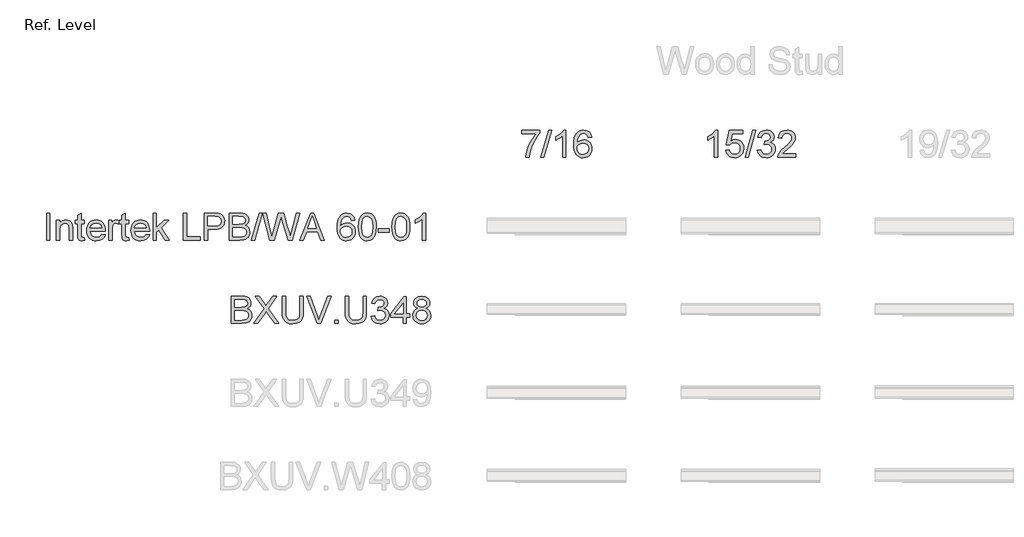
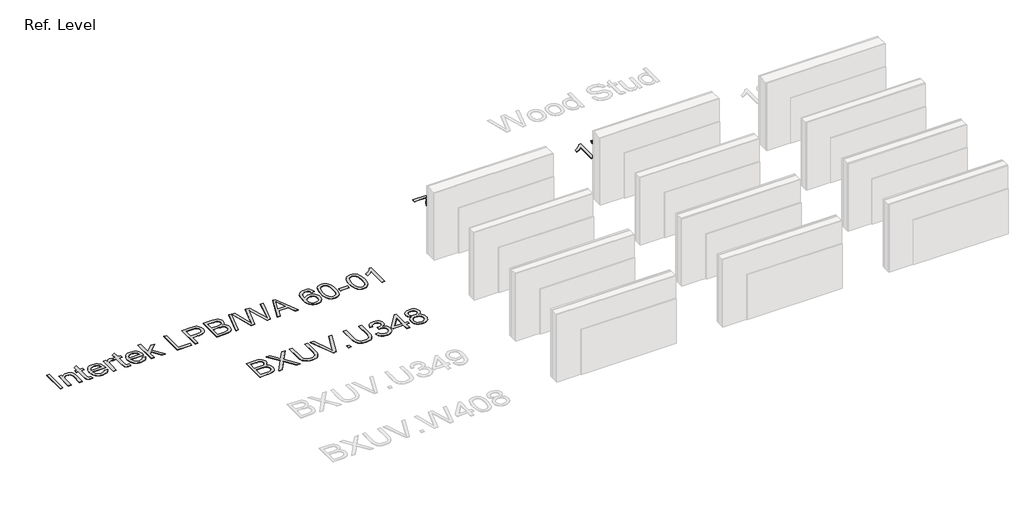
# One storey, part 4 of 5: 4 proxies.
"""IFC4 building model written with IfcOpenShell, lengths in millimetres."""

from ifc_helpers import new_model, si_unit, origin, origin_with_axes, place, context, project, spatial, polyline, outline, extrude, element, save

model = new_model("IFC4")

# Units and contexts
model_context = context("Model", 3, world=origin())
ifc_project = project(units=[si_unit("LENGTHUNIT", "METRE", prefix="MILLI")], contexts=[model_context])

# Site, building, storey
site = spatial("IfcSite", under=ifc_project)
building = spatial("IfcBuilding", under=site)
storey = spatial("IfcBuildingStorey", under=building, Name="Ref. Level", Elevation=0.0)

# Proxies
placement = place(None, origin())
element("IfcBuildingElementProxy", 1, Name="12\" Arial", ObjectType="12\" Arial", at=placement, inside=storey, context=model_context, shape_type="SweptSolid", body=[
    extrude(outline(polyline([(-7350.7408625, -274.6742281), (-7350.7408625, -237.160382), (-7153.7931702, -237.160382), (-7153.7931702, -267.4938435), (-7181.8644442, -303.0202618), (-7209.6609586, -348.1999012), (-7234.178675, -398.9113676), (-7252.4135548, -451.0332666), (-7261.3524009, -490.0308147), (-7266.3347086, -532.5819205), (-7303.8485548, -532.5819205), (-7299.7912711, -493.9140839), (-7288.9382663, -447.9559589), (-7271.5826173, -399.2410791), (-7248.0174009, -352.3029781), (-7220.5048048, -309.8709349), (-7191.3070163, -274.6742281), (-7350.7408625, -274.6742281)])), origin_with_axes(), (0.0, 0.0, 1.0), 3.175),
    extrude(outline(polyline([(-7139.7254778, -532.5819205), (-7055.319324, -232.4711512), (-7021.4689394, -232.4711512), (-7105.8750932, -532.5819205), (-7139.7254778, -532.5819205)])), origin_with_axes(), (0.0, 0.0, 1.0), 3.175),
    extrude(outline(polyline([(-6863.0608625, -532.5819205), (-6900.5747086, -532.5819205), (-6900.5747086, -298.7065358), (-6936.1102855, -324.0210551), (-6975.6024009, -342.9611512), (-6975.6024009, -307.4988435), (-6946.1390115, -291.4711993), (-6920.6138432, -272.402882), (-6900.4922807, -252.1256224), (-6887.2397086, -232.4711512), (-6863.0608625, -232.4711512), (-6863.0608625, -532.5819205)])), origin_with_axes(), (0.0, 0.0, 1.0), 3.175),
    extrude(outline(polyline([(-6581.7070163, -312.1880743), (-6619.2208625, -316.8773051), (-6625.265574, -298.2852378), (-6633.4350932, -285.5913435), (-6650.4518721, -273.8865839), (-6671.0222086, -269.9849974), (-6688.4602855, -272.2563435), (-6704.8725932, -279.070382), (-6718.9677615, -293.4219926), (-6730.4801894, -313.1772089), (-6738.2558865, -341.1202618), (-6741.1408625, -380.035382), (-6726.0931942, -362.4782426), (-6708.0598048, -350.1049012), (-6688.0481461, -342.7688195), (-6667.0656702, -340.3234589), (-6649.0414394, -341.9949132), (-6632.409324, -347.0092762), (-6617.169324, -355.3665479), (-6603.3214394, -367.0667281), (-6591.8135908, -381.4137594), (-6583.593699, -397.7115839), (-6578.6617639, -415.9602017), (-6577.0177855, -436.1596128), (-6580.1134105, -463.0219445), (-6589.4002855, -487.9243243), (-6604.1090836, -509.0441801), (-6623.4704778, -524.5589397), (-6646.6052375, -534.0930983), (-6672.6341317, -537.2711512), (-6694.9972747, -535.1646608), (-6715.1943961, -528.8451897), (-6733.2254959, -518.3127378), (-6749.090574, -503.5673051), (-6762.0248829, -483.9861031), (-6771.263675, -458.9463435), (-6776.8069502, -428.4480262), (-6778.6547086, -392.4911512), (-6776.6031702, -352.1793363), (-6770.4485548, -317.7748531), (-6760.1908625, -289.2777017), (-6745.8300932, -266.687882), (-6730.264961, -251.7180623), (-6712.2178336, -241.0253339), (-6691.688711, -234.6096969), (-6668.6775932, -232.4711512), (-6635.7613913, -237.7648531), (-6609.4027855, -253.6459589), (-6590.9389394, -278.8688916), (-6581.7070163, -312.1880743)]), holes=[polyline([(-6741.1408625, -435.5734589), (-6738.9702615, -452.1964156), (-6732.4584586, -468.0683628), (-6722.3473048, -481.714757), (-6709.3786509, -491.6610551), (-6693.7265115, -497.7332426), (-6675.5649009, -499.7573051), (-6650.8090596, -495.5626416), (-6631.3469202, -482.9786512), (-6618.7354538, -463.1959589), (-6614.5316317, -437.4051897), (-6618.6805019, -412.6493483), (-6631.1271125, -393.7733628), (-6650.9189634, -381.8213195), (-6677.1035548, -377.8373051), (-6701.8227615, -381.8213195), (-6722.4938432, -393.7733628), (-6736.4791077, -412.1914156), (-6741.1408625, -435.5734589)])]), origin_with_axes(), (0.0, 0.0, 1.0), 3.175),
])
element("IfcBuildingElementProxy", 2, Name="12\" Arial", ObjectType="12\" Arial", at=placement, inside=storey, context=model_context, shape_type="SweptSolid", body=[
    extrude(outline(polyline([(-12581.5777855, -1446.9819205), (-12581.5777855, -1146.8711512), (-12544.0639394, -1146.8711512), (-12544.0639394, -1446.9819205), (-12581.5777855, -1446.9819205)])), origin_with_axes(), (0.0, 0.0, 1.0), 3.175),
    extrude(outline(polyline([(-12473.7254778, -1446.9819205), (-12473.7254778, -1226.5880743), (-12436.2116317, -1226.5880743), (-12436.2116317, -1257.3611512), (-12423.1788673, -1241.8463916), (-12407.5267278, -1230.7644205), (-12389.2552134, -1224.1152378), (-12368.364324, -1221.8988435), (-12349.8730019, -1223.684781), (-12332.9386509, -1229.0425935), (-12318.8160067, -1237.3036993), (-12308.7598048, -1247.7995166), (-12297.5129778, -1275.385382), (-12295.5347086, -1311.6536512), (-12295.5347086, -1446.9819205), (-12333.0485548, -1446.9819205), (-12333.0485548, -1316.7092281), (-12337.3714394, -1283.5182666), (-12343.3520403, -1273.6360791), (-12352.648074, -1265.9702858), (-12364.5634827, -1261.0520887), (-12378.4022086, -1259.4126897), (-12400.3738192, -1263.0944685), (-12419.1032663, -1274.1398051), (-12426.5881762, -1283.1564998), (-12431.9345403, -1295.4794685), (-12436.2116317, -1330.0442281), (-12436.2116317, -1446.9819205), (-12473.7254778, -1446.9819205)])), origin_with_axes(), (0.0, 0.0, 1.0), 3.175),
    extrude(outline(polyline([(-12164.2362471, -1415.6959589), (-12159.5470163, -1448.0809589), (-12187.6091317, -1451.6711512), (-12205.6150452, -1450.1141801), (-12219.0416317, -1445.4432666), (-12228.5299971, -1438.2445647), (-12234.7212471, -1429.1042281), (-12238.1282663, -1413.4062955), (-12239.2639394, -1386.5348051), (-12239.2639394, -1264.1019205), (-12267.399324, -1264.1019205), (-12267.399324, -1226.5880743), (-12239.2639394, -1226.5880743), (-12239.2639394, -1173.0282666), (-12201.7500932, -1150.9742281), (-12201.7500932, -1226.5880743), (-12164.2362471, -1226.5880743), (-12164.2362471, -1264.1019205), (-12201.7500932, -1264.1019205), (-12201.7500932, -1385.4357666), (-12199.771824, -1404.7788435), (-12193.3607663, -1411.6295166), (-12180.5752855, -1414.1573051), (-12164.2362471, -1415.6959589)])), origin_with_axes(), (0.0, 0.0, 1.0), 3.175),
    extrude(outline(polyline([(-11972.4174009, -1381.3326897), (-11935.6362471, -1386.0219205), (-11948.8888192, -1413.736007), (-11970.0361509, -1434.452882), (-11998.6019923, -1447.3665839), (-12034.1100932, -1451.6711512), (-12057.386812, -1449.8142342), (-12078.1265836, -1444.243483), (-12096.3294081, -1434.9588976), (-12111.9952855, -1421.9604781), (-12124.5930139, -1405.6099914), (-12133.5913913, -1386.2692041), (-12138.9904177, -1363.9381164), (-12140.7900932, -1338.6167281), (-12138.9721004, -1312.4367161), (-12133.5181221, -1289.3614878), (-12124.4281581, -1269.3910431), (-12111.7022086, -1252.525382), (-12096.0775452, -1239.1262714), (-12078.2914394, -1229.5554781), (-12058.3438913, -1223.8130022), (-12036.2349009, -1221.8988435), (-12014.8379959, -1223.8084229), (-11995.48805, -1229.5371608), (-11978.1850632, -1239.0850575), (-11962.9290355, -1252.4521128), (-11950.475556, -1269.2811392), (-11941.5802134, -1289.2149493), (-11936.2430079, -1312.2535431), (-11934.4639394, -1338.3969205), (-11934.6837471, -1348.5080743), (-12103.2762471, -1348.5080743), (-12096.7827615, -1376.588507), (-12081.6984586, -1397.2321128), (-12059.9283384, -1409.926007), (-12033.3774009, -1414.1573051), (-12013.4115355, -1412.1973531), (-11996.5962471, -1406.3174974), (-11982.9315355, -1396.1513916), (-11972.4174009, -1381.3326897)]), holes=[polyline([(-12103.2762471, -1310.9942281), (-11971.9777855, -1310.9942281), (-11977.0516798, -1291.1749012), (-11986.9979778, -1276.9973051), (-12008.8688432, -1263.8088435), (-12036.3814394, -1259.4126897), (-12061.6684827, -1262.9204541), (-12082.5776894, -1273.4437474), (-12097.112473, -1289.8468964), (-12103.2762471, -1310.9942281)])]), origin_with_axes(), (0.0, 0.0, 1.0), 3.175),
    extrude(outline(polyline([(-11896.9500932, -1446.9819205), (-11896.9500932, -1226.5880743), (-11864.1254778, -1226.5880743), (-11864.1254778, -1259.192882), (-11851.9994202, -1240.2894205), (-11840.8258625, -1229.1524974), (-11829.6156702, -1223.712257), (-11817.3797086, -1221.8988435), (-11798.6960548, -1224.7929781), (-11779.719324, -1233.475382), (-11792.2483625, -1267.1059589), (-11805.436824, -1261.336007), (-11818.6252855, -1259.4126897), (-11829.8263192, -1261.2627378), (-11839.8367278, -1266.812882), (-11847.9238192, -1275.6418243), (-11853.3549009, -1287.3282666), (-11857.9159105, -1308.2832666), (-11859.4362471, -1331.1432666), (-11859.4362471, -1446.9819205), (-11896.9500932, -1446.9819205)])), origin_with_axes(), (0.0, 0.0, 1.0), 3.175),
    extrude(outline(polyline([(-11676.5562471, -1415.6959589), (-11671.8670163, -1448.0809589), (-11699.9291317, -1451.6711512), (-11717.9350452, -1450.1141801), (-11731.3616317, -1445.4432666), (-11740.8499971, -1438.2445647), (-11747.0412471, -1429.1042281), (-11750.4482663, -1413.4062955), (-11751.5839394, -1386.5348051), (-11751.5839394, -1264.1019205), (-11779.719324, -1264.1019205), (-11779.719324, -1226.5880743), (-11751.5839394, -1226.5880743), (-11751.5839394, -1173.0282666), (-11714.0700932, -1150.9742281), (-11714.0700932, -1226.5880743), (-11676.5562471, -1226.5880743), (-11676.5562471, -1264.1019205), (-11714.0700932, -1264.1019205), (-11714.0700932, -1385.4357666), (-11712.091824, -1404.7788435), (-11705.6807663, -1411.6295166), (-11692.8952855, -1414.1573051), (-11676.5562471, -1415.6959589)])), origin_with_axes(), (0.0, 0.0, 1.0), 3.175),
    extrude(outline(polyline([(-11484.7374009, -1381.3326897), (-11447.9562471, -1386.0219205), (-11461.2088192, -1413.736007), (-11482.3561509, -1434.452882), (-11510.9219923, -1447.3665839), (-11546.4300932, -1451.6711512), (-11569.706812, -1449.8142342), (-11590.4465836, -1444.243483), (-11608.6494081, -1434.9588976), (-11624.3152855, -1421.9604781), (-11636.9130139, -1405.6099914), (-11645.9113913, -1386.2692041), (-11651.3104177, -1363.9381164), (-11653.1100932, -1338.6167281), (-11651.2921004, -1312.4367161), (-11645.8381221, -1289.3614878), (-11636.7481581, -1269.3910431), (-11624.0222086, -1252.525382), (-11608.3975452, -1239.1262714), (-11590.6114394, -1229.5554781), (-11570.6638913, -1223.8130022), (-11548.5549009, -1221.8988435), (-11527.1579959, -1223.8084229), (-11507.80805, -1229.5371608), (-11490.5050632, -1239.0850575), (-11475.2490355, -1252.4521128), (-11462.795556, -1269.2811392), (-11453.9002134, -1289.2149493), (-11448.5630079, -1312.2535431), (-11446.7839394, -1338.3969205), (-11447.0037471, -1348.5080743), (-11615.5962471, -1348.5080743), (-11609.1027615, -1376.588507), (-11594.0184586, -1397.2321128), (-11572.2483384, -1409.926007), (-11545.6974009, -1414.1573051), (-11525.7315355, -1412.1973531), (-11508.9162471, -1406.3174974), (-11495.2515355, -1396.1513916), (-11484.7374009, -1381.3326897)]), holes=[polyline([(-11615.5962471, -1310.9942281), (-11484.2977855, -1310.9942281), (-11489.3716798, -1291.1749012), (-11499.3179778, -1276.9973051), (-11521.1888432, -1263.8088435), (-11548.7014394, -1259.4126897), (-11573.9884827, -1262.9204541), (-11594.8976894, -1273.4437474), (-11609.432473, -1289.8468964), (-11615.5962471, -1310.9942281)])]), origin_with_axes(), (0.0, 0.0, 1.0), 3.175),
    extrude(outline(polyline([(-11409.2700932, -1446.9819205), (-11409.2700932, -1146.8711512), (-11371.7562471, -1146.8711512), (-11371.7562471, -1308.1367281), (-11287.6431702, -1226.5880743), (-11235.7685548, -1226.5880743), (-11320.9074009, -1309.1624974), (-11231.079324, -1446.9819205), (-11274.894324, -1446.9819205), (-11347.7972086, -1335.2463435), (-11371.7562471, -1358.4726897), (-11371.7562471, -1446.9819205), (-11409.2700932, -1446.9819205)])), origin_with_axes(), (0.0, 0.0, 1.0), 3.175),
    extrude(outline(polyline([(-11076.3347086, -1446.9819205), (-11076.3347086, -1146.8711512), (-11038.8208625, -1146.8711512), (-11038.8208625, -1409.4680743), (-10888.7654778, -1409.4680743), (-10888.7654778, -1446.9819205), (-11076.3347086, -1446.9819205)])), origin_with_axes(), (0.0, 0.0, 1.0), 3.175),
    extrude(outline(polyline([(-10846.5624009, -1446.9819205), (-10846.5624009, -1146.8711512), (-10735.3397086, -1146.8711512), (-10690.4989394, -1149.7286512), (-10670.505598, -1155.0681464), (-10654.0474971, -1163.7597089), (-10640.794925, -1176.1971608), (-10630.4181702, -1192.7743243), (-10623.7140355, -1212.3280503), (-10621.479324, -1233.6951897), (-10622.9882122, -1252.1178219), (-10627.5148769, -1269.0659108), (-10635.059318, -1284.5394565), (-10645.6215355, -1298.5384589), (-10660.1219742, -1310.1424733), (-10679.4810788, -1318.4310551), (-10703.6988492, -1323.4042041), (-10732.7752855, -1325.0619205), (-10809.0485548, -1325.0619205), (-10809.0485548, -1446.9819205), (-10846.5624009, -1446.9819205)]), holes=[polyline([(-10809.0485548, -1287.5480743), (-10730.5772086, -1287.5480743), (-10697.3129778, -1284.1044205), (-10675.3322086, -1273.7734589), (-10663.0779298, -1257.1962955), (-10658.9931702, -1235.0140358), (-10661.4018961, -1218.1621128), (-10668.628074, -1203.947882), (-10679.7741557, -1193.2505743), (-10693.9425932, -1186.9494205), (-10731.4564394, -1184.3849974), (-10809.0485548, -1184.3849974), (-10809.0485548, -1287.5480743)])]), origin_with_axes(), (0.0, 0.0, 1.0), 3.175),
    extrude(outline(polyline([(-10569.8977855, -1446.9819205), (-10569.8977855, -1146.8711512), (-10455.3779778, -1146.8711512), (-10423.8813673, -1149.0783868), (-10399.2903817, -1155.7000935), (-10380.4418721, -1166.9011272), (-10366.1726894, -1182.8463435), (-10357.18805, -1201.6032666), (-10354.1931702, -1221.2394205), (-10356.7118, -1239.3094445), (-10364.2676894, -1256.2987474), (-10376.9157903, -1271.1632426), (-10394.7110548, -1282.8588435), (-10373.4538192, -1293.959132), (-10357.7467278, -1310.8476897), (-10348.0477134, -1332.4071608), (-10344.8147086, -1357.5201897), (-10347.0219442, -1378.4477137), (-10353.6436509, -1397.8549012), (-10363.5258384, -1414.3587955), (-10375.5145163, -1426.5764397), (-10390.1958384, -1435.4236993), (-10408.1559586, -1441.8164397), (-10456.2572086, -1446.9819205), (-10569.8977855, -1446.9819205)]), holes=[polyline([(-10532.3839394, -1268.7911512), (-10463.8772086, -1268.7911512), (-10423.8722086, -1265.5673051), (-10409.8686269, -1260.0080022), (-10399.8032663, -1251.6827858), (-10393.7310788, -1240.7198772), (-10391.7070163, -1227.2474974), (-10393.593699, -1214.1689397), (-10399.2537471, -1202.7755743), (-10408.4307182, -1193.8825214), (-10420.8681702, -1188.3049012), (-10469.079324, -1184.3849974), (-10532.3839394, -1184.3849974), (-10532.3839394, -1268.7911512)]), polyline([(-10532.3839394, -1409.4680743), (-10455.4512471, -1409.4680743), (-10427.6089394, -1408.0026897), (-10404.0528817, -1399.8331705), (-10388.4465355, -1383.1644205), (-10383.85805, -1371.3863916), (-10382.3285548, -1357.8865358), (-10384.1236509, -1342.2069205), (-10389.5089394, -1328.725382), (-10398.9148769, -1318.1837714), (-10412.7719202, -1311.3239397), (-10432.3989153, -1307.559733), (-10459.1147086, -1306.3049974), (-10532.3839394, -1306.3049974), (-10532.3839394, -1409.4680743)])]), origin_with_axes(), (0.0, 0.0, 1.0), 3.175),
    extrude(outline(polyline([(-10326.0577855, -1446.9819205), (-10241.6516317, -1146.8711512), (-10207.8012471, -1146.8711512), (-10292.2074009, -1446.9819205), (-10326.0577855, -1446.9819205)])), origin_with_axes(), (0.0, 0.0, 1.0), 3.175),
    extrude(outline(polyline([(-10122.2960548, -1446.9819205), (-10204.1377855, -1146.8711512), (-10165.4516317, -1146.8711512), (-10117.9731702, -1344.1119205), (-10103.319324, -1404.9986512), (-10087.6397086, -1351.1457666), (-10028.1450932, -1146.8711512), (-9972.3872086, -1146.8711512), (-9929.1583625, -1294.9482666), (-9910.6395644, -1349.9001897), (-9896.9931702, -1404.9986512), (-9882.7789394, -1345.870382), (-9834.8608625, -1146.8711512), (-9796.1747086, -1146.8711512), (-9878.0897086, -1446.9819205), (-9918.1679778, -1446.9819205), (-9990.1183625, -1215.4511512), (-10000.1562471, -1183.1394205), (-10011.4397086, -1222.045382), (-10077.0156702, -1446.9819205), (-10122.2960548, -1446.9819205)])), origin_with_axes(), (0.0, 0.0, 1.0), 3.175),
    extrude(outline(polyline([(-9793.6102855, -1446.9819205), (-9673.8150932, -1146.8711512), (-9641.8697086, -1146.8711512), (-9522.0745163, -1446.9819205), (-9561.7131702, -1446.9819205), (-9596.0764394, -1353.1973051), (-9719.6816317, -1353.1973051), (-9753.9716317, -1446.9819205), (-9793.6102855, -1446.9819205)]), holes=[polyline([(-9705.9070163, -1315.6834589), (-9609.7777855, -1315.6834589), (-9636.8141317, -1241.9013435), (-9657.8424009, -1184.3849974), (-9676.5260548, -1235.4536512), (-9705.9070163, -1315.6834589)])]), origin_with_axes(), (0.0, 0.0, 1.0), 3.175),
    extrude(outline(polyline([(-9186.5747086, -1226.5880743), (-9224.0885548, -1231.2773051), (-9230.1332663, -1212.6852378), (-9238.3027855, -1199.9913435), (-9255.3195644, -1188.2865839), (-9275.8899009, -1184.3849974), (-9293.3279778, -1186.6563435), (-9309.7402855, -1193.470382), (-9323.8354538, -1207.8219926), (-9335.3478817, -1227.5772089), (-9343.1235788, -1255.5202618), (-9346.0085548, -1294.435382), (-9330.9608865, -1276.8782426), (-9312.9274971, -1264.5049012), (-9292.9158384, -1257.1688195), (-9271.9333625, -1254.7234589), (-9253.9091317, -1256.3949132), (-9237.2770163, -1261.4092762), (-9222.0370163, -1269.7665479), (-9208.1891317, -1281.4667281), (-9196.6812831, -1295.8137594), (-9188.4613913, -1312.1115839), (-9183.5294562, -1330.3602017), (-9181.8854778, -1350.5596128), (-9184.9811028, -1377.4219445), (-9194.2679778, -1402.3243243), (-9208.9767759, -1423.4441801), (-9228.3381702, -1438.9589397), (-9251.4729298, -1448.4930983), (-9277.501824, -1451.6711512), (-9299.864967, -1449.5646608), (-9320.0620884, -1443.2451897), (-9338.0931882, -1432.7127378), (-9353.9582663, -1417.9673051), (-9366.8925752, -1398.3861031), (-9376.1313673, -1373.3463435), (-9381.6746425, -1342.8480262), (-9383.5224009, -1306.8911512), (-9381.4708625, -1266.5793363), (-9375.3162471, -1232.1748531), (-9365.0585548, -1203.6777017), (-9350.6977855, -1181.087882), (-9335.1326533, -1166.1180623), (-9317.0855259, -1155.4253339), (-9296.5564033, -1149.0096969), (-9273.5452855, -1146.8711512), (-9240.6290836, -1152.1648531), (-9214.2704778, -1168.0459589), (-9195.8066317, -1193.2688916), (-9186.5747086, -1226.5880743)]), holes=[polyline([(-9346.0085548, -1349.9734589), (-9343.8379538, -1366.5964156), (-9337.3261509, -1382.4683628), (-9327.2149971, -1396.114757), (-9314.2463432, -1406.0610551), (-9298.5942038, -1412.1332426), (-9280.4325932, -1414.1573051), (-9255.6767519, -1409.9626416), (-9236.2146125, -1397.3786512), (-9223.6031461, -1377.5959589), (-9219.399324, -1351.8051897), (-9223.5481942, -1327.0493483), (-9235.9948048, -1308.1733628), (-9255.7866557, -1296.2213195), (-9281.9712471, -1292.2373051), (-9306.6904538, -1296.2213195), (-9327.3615355, -1308.1733628), (-9341.3468, -1326.5914156), (-9346.0085548, -1349.9734589)])]), origin_with_axes(), (0.0, 0.0, 1.0), 3.175),
    extrude(outline(polyline([(-9149.0608625, -1299.3444205), (-9146.3041077, -1251.307281), (-9138.0338432, -1212.996632), (-9124.3324971, -1183.8263195), (-9105.2824971, -1163.2101897), (-9080.7464634, -1150.9559108), (-9050.5870163, -1146.8711512), (-9027.470574, -1149.2890358), (-9006.7720163, -1156.5426897), (-8989.4621605, -1168.3481945), (-8976.511824, -1184.421632), (-8966.7303817, -1204.6256224), (-8958.9272086, -1228.8227858), (-8953.8166798, -1259.5500695), (-8952.1131702, -1299.3444205), (-8954.842449, -1347.1068003), (-8963.0302855, -1385.3258628), (-8976.6492038, -1414.5236512), (-8995.6717278, -1435.2222089), (-9020.2627134, -1447.5589156), (-9050.5870163, -1451.6711512), (-9071.2489394, -1449.8852137), (-9089.5662471, -1444.5274012), (-9105.5389394, -1435.5977137), (-9119.1670163, -1423.0961512), (-9132.245574, -1400.4971729), (-9141.5874009, -1372.3388916), (-9147.1924971, -1338.6213075), (-9149.0608625, -1299.3444205)]), holes=[polyline([(-9111.5470163, -1299.2711512), (-9107.1508625, -1358.280358), (-9101.6556702, -1378.4637414), (-9093.9624009, -1392.4329781), (-9074.3262471, -1408.7262233), (-9050.5870163, -1414.1573051), (-9026.8477855, -1408.707906), (-9007.2116317, -1392.3597089), (-8999.5183625, -1378.3675755), (-8994.0231702, -1358.1887714), (-8989.6270163, -1299.2711512), (-8993.8766317, -1241.5899493), (-8999.1886509, -1221.4729661), (-9006.6254778, -1207.1717281), (-9026.2249971, -1190.0816801), (-9051.0266317, -1184.3849974), (-9074.5094202, -1189.4039397), (-9093.3762471, -1204.4607666), (-9101.3259586, -1220.0304781), (-9107.004324, -1241.0221128), (-9111.5470163, -1299.2711512)])]), origin_with_axes(), (0.0, 0.0, 1.0), 3.175),
    extrude(outline(polyline([(-8928.6670163, -1357.8865358), (-8928.6670163, -1320.3726897), (-8811.4362471, -1320.3726897), (-8811.4362471, -1357.8865358), (-8928.6670163, -1357.8865358)])), origin_with_axes(), (0.0, 0.0, 1.0), 3.175),
    extrude(outline(polyline([(-8778.6116317, -1299.3444205), (-8775.8548769, -1251.307281), (-8767.5846125, -1212.996632), (-8753.8832663, -1183.8263195), (-8734.8332663, -1163.2101897), (-8710.2972327, -1150.9559108), (-8680.1377855, -1146.8711512), (-8657.0213432, -1149.2890358), (-8636.3227855, -1156.5426897), (-8619.0129298, -1168.3481945), (-8606.0625932, -1184.421632), (-8596.2811509, -1204.6256224), (-8588.4779778, -1228.8227858), (-8583.367449, -1259.5500695), (-8581.6639394, -1299.3444205), (-8584.3932182, -1347.1068003), (-8592.5810548, -1385.3258628), (-8606.199973, -1414.5236512), (-8625.2224971, -1435.2222089), (-8649.8134827, -1447.5589156), (-8680.1377855, -1451.6711512), (-8700.7997086, -1449.8852137), (-8719.1170163, -1444.5274012), (-8735.0897086, -1435.5977137), (-8748.7177855, -1423.0961512), (-8761.7963432, -1400.4971729), (-8771.1381702, -1372.3388916), (-8776.7432663, -1338.6213075), (-8778.6116317, -1299.3444205)]), holes=[polyline([(-8741.0977855, -1299.2711512), (-8736.7016317, -1358.280358), (-8731.2064394, -1378.4637414), (-8723.5131702, -1392.4329781), (-8703.8770163, -1408.7262233), (-8680.1377855, -1414.1573051), (-8656.3985548, -1408.707906), (-8636.7624009, -1392.3597089), (-8629.0691317, -1378.3675755), (-8623.5739394, -1358.1887714), (-8619.1777855, -1299.2711512), (-8623.4274009, -1241.5899493), (-8628.7394202, -1221.4729661), (-8636.1762471, -1207.1717281), (-8655.7757663, -1190.0816801), (-8680.5774009, -1184.3849974), (-8704.0601894, -1189.4039397), (-8722.9270163, -1204.4607666), (-8730.8767278, -1220.0304781), (-8736.5550932, -1241.0221128), (-8741.0977855, -1299.2711512)])]), origin_with_axes(), (0.0, 0.0, 1.0), 3.175),
    extrude(outline(polyline([(-8408.1624009, -1446.9819205), (-8445.6762471, -1446.9819205), (-8445.6762471, -1213.1065358), (-8481.211824, -1238.4210551), (-8520.7039394, -1257.3611512), (-8520.7039394, -1221.8988435), (-8491.24055, -1205.8711993), (-8465.7153817, -1186.802882), (-8445.5938192, -1166.5256224), (-8432.3412471, -1146.8711512), (-8408.1624009, -1146.8711512), (-8408.1624009, -1446.9819205)])), origin_with_axes(), (0.0, 0.0, 1.0), 3.175),
])
element("IfcBuildingElementProxy", 3, Name="12\" Arial", ObjectType="12\" Arial", at=placement, inside=storey, context=model_context, shape_type="SweptSolid", body=[
    extrude(outline(polyline([(-5191.3500932, -532.5819205), (-5228.8639394, -532.5819205), (-5228.8639394, -298.7065358), (-5264.3995163, -324.0210551), (-5303.8916317, -342.9611512), (-5303.8916317, -307.4988435), (-5274.4282423, -291.4711993), (-5248.903074, -272.402882), (-5228.7815115, -252.1256224), (-5215.5289394, -232.4711512), (-5191.3500932, -232.4711512), (-5191.3500932, -532.5819205)])), origin_with_axes(), (0.0, 0.0, 1.0), 3.175),
    extrude(outline(polyline([(-5102.2547086, -452.8649974), (-5064.7408625, -448.1757666), (-5057.8535548, -470.6968964), (-5045.8374009, -486.8252858), (-5028.7473528, -496.5243003), (-5006.6383625, -499.7573051), (-4979.7485548, -495.260406), (-4959.5995163, -481.7697089), (-4947.0155259, -460.8421849), (-4942.8208625, -434.0348051), (-4946.749925, -408.7935551), (-4958.5371125, -389.4871128), (-4978.2740115, -377.2328339), (-5006.0522086, -373.1480743), (-5024.2504538, -374.7783147), (-5038.9867278, -379.6690358), (-5060.0516317, -396.5942281), (-5097.5654778, -391.9049974), (-5064.7408625, -237.160382), (-4919.3747086, -237.160382), (-4919.3747086, -274.6742281), (-5034.4074009, -274.6742281), (-5050.4533625, -357.3219205), (-5023.6551413, -341.0561512), (-4995.5747086, -335.6342281), (-4977.3054839, -337.3148411), (-4960.5245403, -342.3566801), (-4945.2318781, -350.759745), (-4931.4274971, -362.5240358), (-4919.9997867, -376.9305983), (-4911.8371365, -393.2604781), (-4906.9395464, -411.5136753), (-4905.3070163, -431.6901897), (-4911.1868721, -469.2040358), (-4918.5366918, -485.9277378), (-4928.8264394, -501.2959589), (-4944.4144682, -517.0351056), (-4962.6035548, -528.2773531), (-4983.393699, -535.0227017), (-5006.7849009, -537.2711512), (-5043.6301653, -531.4920406), (-5059.2433805, -524.2681524), (-5072.9836509, -514.1547089), (-5084.4159406, -501.6554361), (-5093.1052134, -487.2740599), (-5102.2547086, -452.8649974)])), origin_with_axes(), (0.0, 0.0, 1.0), 3.175),
    extrude(outline(polyline([(-4891.239324, -532.5819205), (-4806.8331702, -232.4711512), (-4772.9827855, -232.4711512), (-4857.3889394, -532.5819205), (-4891.239324, -532.5819205)])), origin_with_axes(), (0.0, 0.0, 1.0), 3.175),
    extrude(outline(polyline([(-4755.2516317, -452.8649974), (-4717.7377855, -448.1757666), (-4709.3393, -471.7501416), (-4697.0392278, -487.667882), (-4680.233098, -496.7349493), (-4658.3164394, -499.7573051), (-4632.5989394, -495.5992762), (-4612.7429778, -483.1251897), (-4600.0490836, -464.5148051), (-4595.8177855, -441.947882), (-4600.012449, -420.5257906), (-4612.5964394, -403.1518243), (-4631.6464394, -391.6393964), (-4655.2391317, -387.8019205), (-4681.5427855, -391.9049974), (-4677.3664394, -354.3911512), (-4671.3583625, -354.8307666), (-4648.8830259, -352.1381224), (-4628.7889394, -344.0601897), (-4614.6113432, -330.3954781), (-4609.8854778, -310.9424974), (-4613.3108144, -294.7408387), (-4623.586824, -281.5981705), (-4639.2664394, -272.8882906), (-4658.9025932, -269.9849974), (-4678.5753817, -272.9157666), (-4694.6579778, -281.7080743), (-4706.3993721, -296.3619205), (-4713.0485548, -316.8773051), (-4750.5624009, -312.1880743), (-4739.5170644, -278.5025455), (-4719.8625932, -253.352882), (-4692.9727855, -237.6915839), (-4660.2214394, -232.4711512), (-4636.6379057, -235.044733), (-4614.9776894, -242.7654781), (-4596.7153336, -254.9464878), (-4583.3253817, -270.9008628), (-4575.1100692, -289.282281), (-4572.3716317, -308.7444205), (-4574.9726894, -326.8785551), (-4582.7758625, -343.3274974), (-4595.6712471, -357.3402378), (-4613.5489394, -368.1657666), (-4590.0661509, -377.654132), (-4572.6647086, -393.8099974), (-4561.8941317, -415.754132), (-4558.3039394, -442.6073051), (-4560.0990355, -461.6389878), (-4565.484324, -479.1686512), (-4574.4598048, -495.1962955), (-4587.0254778, -509.7219205), (-4602.3341677, -521.7747089), (-4619.538699, -530.3838435), (-4638.6390716, -535.5493243), (-4659.6352855, -537.2711512), (-4695.9035548, -531.3912955), (-4711.5099009, -524.0414757), (-4725.4310548, -513.7517281), (-4737.1037591, -501.1265238), (-4745.9647567, -486.7703339), (-4755.2516317, -452.8649974)])), origin_with_axes(), (0.0, 0.0, 1.0), 3.175),
    extrude(outline(polyline([(-4333.2208625, -495.0680743), (-4333.2208625, -532.5819205), (-4530.1685548, -532.5819205), (-4526.1387471, -506.717882), (-4516.8885067, -486.504733), (-4503.3520163, -466.8960551), (-4483.7708144, -446.3715118), (-4456.3864394, -423.4107666), (-4415.9051894, -387.4538916), (-4391.6164394, -360.9121128), (-4379.4720644, -339.3709589), (-4375.4239394, -318.4159589), (-4379.243098, -299.6315599), (-4390.700574, -284.0160551), (-4408.3126653, -273.4927618), (-4430.5956702, -269.9849974), (-4453.9960307, -273.4103339), (-4472.1759586, -283.6863435), (-4483.9081942, -300.0070647), (-4487.9654778, -321.5665358), (-4525.479324, -316.8773051), (-4516.3847807, -280.5907185), (-4507.8741016, -266.1154661), (-4496.7211509, -254.0855743), (-4483.1823709, -244.6292642), (-4467.5142038, -237.874757), (-4429.7897086, -232.4711512), (-4409.6841738, -233.9731705), (-4391.7904538, -238.4792281), (-4376.1085488, -245.9893243), (-4362.6384586, -256.5034589), (-4351.8197988, -269.2431464), (-4344.0921846, -283.4299012), (-4339.4556161, -299.0637233), (-4337.9100932, -316.1446128), (-4339.5769682, -334.0864156), (-4344.5775932, -351.7168243), (-4353.4523288, -369.6494685), (-4366.7415355, -388.4979781), (-4387.9255019, -411.0007906), (-4420.4845163, -439.8963435), (-4463.6400932, -475.9814397), (-4480.5652855, -495.0680743), (-4333.2208625, -495.0680743)])), origin_with_axes(), (0.0, 0.0, 1.0), 3.175),
])
element("IfcBuildingElementProxy", 4, Name="12\" Arial", ObjectType="12\" Arial", at=placement, inside=storey, context=model_context, shape_type="SweptSolid", body=[
    extrude(outline(polyline([(-10546.4516317, -2361.3819205), (-10546.4516317, -2061.2711512), (-10431.931824, -2061.2711512), (-10400.4352134, -2063.4783868), (-10375.8442278, -2070.1000935), (-10356.9957182, -2081.3011272), (-10342.7265355, -2097.2463435), (-10333.7418961, -2116.0032666), (-10330.7470163, -2135.6394205), (-10333.2656461, -2153.7094445), (-10340.8215355, -2170.6987474), (-10353.4696365, -2185.5632426), (-10371.2649009, -2197.2588435), (-10350.0076653, -2208.359132), (-10334.300574, -2225.2476897), (-10324.6015596, -2246.8071608), (-10321.3685548, -2271.9201897), (-10323.5757903, -2292.8477137), (-10330.1974971, -2312.2549012), (-10340.0796846, -2328.7587955), (-10352.0683625, -2340.9764397), (-10366.7496846, -2349.8236993), (-10384.7098048, -2356.2164397), (-10432.8110548, -2361.3819205), (-10546.4516317, -2361.3819205)]), holes=[polyline([(-10508.9377855, -2183.1911512), (-10440.4310548, -2183.1911512), (-10400.4260548, -2179.9673051), (-10386.422473, -2174.4080022), (-10376.3571125, -2166.0827858), (-10370.284925, -2155.1198772), (-10368.2608625, -2141.6474974), (-10370.1475452, -2128.5689397), (-10375.8075932, -2117.1755743), (-10384.9845644, -2108.2825214), (-10397.4220163, -2102.7049012), (-10445.6331702, -2098.7849974), (-10508.9377855, -2098.7849974), (-10508.9377855, -2183.1911512)]), polyline([(-10508.9377855, -2323.8680743), (-10432.0050932, -2323.8680743), (-10404.1627855, -2322.4026897), (-10380.6067278, -2314.2331705), (-10365.0003817, -2297.5644205), (-10360.4118961, -2285.7863916), (-10358.8824009, -2272.2865358), (-10360.6774971, -2256.6069205), (-10366.0627855, -2243.125382), (-10375.468723, -2232.5837714), (-10389.3257663, -2225.7239397), (-10408.9527615, -2221.959733), (-10435.6685548, -2220.7049974), (-10508.9377855, -2220.7049974), (-10508.9377855, -2323.8680743)])]), origin_with_axes(), (0.0, 0.0, 1.0), 3.175),
    extrude(outline(polyline([(-10302.6116317, -2361.3819205), (-10186.9195163, -2197.8449974), (-10283.8547086, -2061.2711512), (-10238.8674009, -2061.2711512), (-10184.281824, -2138.1305743), (-10165.8912471, -2168.0976897), (-10144.3500932, -2137.6176897), (-10090.3506702, -2061.2711512), (-10044.7039394, -2061.2711512), (-10141.6391317, -2198.2846128), (-10025.9470163, -2361.3819205), (-10070.934324, -2361.3819205), (-10148.0135548, -2252.650382), (-10164.0595163, -2230.0834589), (-10181.7174009, -2254.8484589), (-10256.9649009, -2361.3819205), (-10302.6116317, -2361.3819205)])), origin_with_axes(), (0.0, 0.0, 1.0), 3.175),
    extrude(outline(polyline([(-9791.4854778, -2061.2711512), (-9753.9716317, -2061.2711512), (-9753.9716317, -2234.4063435), (-9756.5177375, -2274.9517041), (-9764.1560548, -2306.1735551), (-9778.4252375, -2330.2608147), (-9800.8639394, -2349.4024012), (-9831.5271125, -2361.9039637), (-9870.4697086, -2366.0711512), (-9908.56055, -2362.4443243), (-9939.013074, -2351.5638435), (-9961.8364394, -2333.8052137), (-9977.0398048, -2309.5439397), (-9985.5848288, -2277.0032426), (-9988.4331702, -2234.4063435), (-9988.4331702, -2061.2711512), (-9950.919324, -2061.2711512), (-9950.919324, -2233.0874974), (-9949.0692759, -2266.8005022), (-9943.5191317, -2290.274132), (-9933.4629298, -2306.5307426), (-9918.0947086, -2318.5926897), (-9898.055574, -2326.0661512), (-9873.9866317, -2328.5573051), (-9835.8316798, -2323.6299493), (-9821.5487591, -2317.4707546), (-9810.4622086, -2308.847882), (-9802.1598889, -2296.7218243), (-9796.2296605, -2280.0530743), (-9791.4854778, -2233.0874974), (-9791.4854778, -2061.2711512)])), origin_with_axes(), (0.0, 0.0, 1.0), 3.175),
    extrude(outline(polyline([(-9599.6666317, -2361.3819205), (-9719.0954778, -2061.2711512), (-9678.9439394, -2061.2711512), (-9599.0072086, -2277.4886512), (-9582.8147086, -2326.2126897), (-9566.8420163, -2277.4886512), (-9486.6854778, -2061.2711512), (-9446.5339394, -2061.2711512), (-9560.9072086, -2361.3819205), (-9599.6666317, -2361.3819205)])), origin_with_axes(), (0.0, 0.0, 1.0), 3.175),
    extrude(outline(polyline([(-9406.9685548, -2361.3819205), (-9406.9685548, -2323.8680743), (-9369.4547086, -2323.8680743), (-9369.4547086, -2361.3819205), (-9406.9685548, -2361.3819205)])), origin_with_axes(), (0.0, 0.0, 1.0), 3.175),
    extrude(outline(polyline([(-9097.479324, -2061.2711512), (-9059.9654778, -2061.2711512), (-9059.9654778, -2234.4063435), (-9062.5115836, -2274.9517041), (-9070.1499009, -2306.1735551), (-9084.4190836, -2330.2608147), (-9106.8577855, -2349.4024012), (-9137.5209586, -2361.9039637), (-9176.4635548, -2366.0711512), (-9214.5543961, -2362.4443243), (-9245.0069202, -2351.5638435), (-9267.8302855, -2333.8052137), (-9283.0336509, -2309.5439397), (-9291.578675, -2277.0032426), (-9294.4270163, -2234.4063435), (-9294.4270163, -2061.2711512), (-9256.9131702, -2061.2711512), (-9256.9131702, -2233.0874974), (-9255.0631221, -2266.8005022), (-9249.5129778, -2290.274132), (-9239.4567759, -2306.5307426), (-9224.0885548, -2318.5926897), (-9204.0494202, -2326.0661512), (-9179.9804778, -2328.5573051), (-9141.8255259, -2323.6299493), (-9127.5426052, -2317.4707546), (-9116.4560548, -2308.847882), (-9108.1537351, -2296.7218243), (-9102.2235067, -2280.0530743), (-9097.479324, -2233.0874974), (-9097.479324, -2061.2711512)])), origin_with_axes(), (0.0, 0.0, 1.0), 3.175),
    extrude(outline(polyline([(-9008.3839394, -2281.6649974), (-8970.8700932, -2276.9757666), (-8962.4716077, -2300.5501416), (-8950.1715355, -2316.467882), (-8933.3654057, -2325.5349493), (-8911.4487471, -2328.5573051), (-8885.7312471, -2324.3992762), (-8865.8752855, -2311.9251897), (-8853.1813913, -2293.3148051), (-8848.9500932, -2270.747882), (-8853.1447567, -2249.3257906), (-8865.7287471, -2231.9518243), (-8884.7787471, -2220.4393964), (-8908.3714394, -2216.6019205), (-8934.6750932, -2220.7049974), (-8930.4987471, -2183.1911512), (-8924.4906702, -2183.6307666), (-8902.0153336, -2180.9381224), (-8881.9212471, -2172.8601897), (-8867.7436509, -2159.1954781), (-8863.0177855, -2139.7424974), (-8866.4431221, -2123.5408387), (-8876.7191317, -2110.3981705), (-8892.3987471, -2101.6882906), (-8912.0349009, -2098.7849974), (-8931.7076894, -2101.7157666), (-8947.7902855, -2110.5080743), (-8959.5316798, -2125.1619205), (-8966.1808625, -2145.6773051), (-9003.6947086, -2140.9880743), (-8992.6493721, -2107.3025455), (-8972.9949009, -2082.152882), (-8946.1050932, -2066.4915839), (-8913.3537471, -2061.2711512), (-8889.7702134, -2063.844733), (-8868.1099971, -2071.5654781), (-8849.8476413, -2083.7464878), (-8836.4576894, -2099.7008628), (-8828.2423769, -2118.082281), (-8825.5039394, -2137.5444205), (-8828.1049971, -2155.6785551), (-8835.9081702, -2172.1274974), (-8848.8035548, -2186.1402378), (-8866.6812471, -2196.9657666), (-8843.1984586, -2206.454132), (-8825.7970163, -2222.6099974), (-8815.0264394, -2244.554132), (-8811.4362471, -2271.4073051), (-8813.2313432, -2290.4389878), (-8818.6166317, -2307.9686512), (-8827.5921125, -2323.9962955), (-8840.1577855, -2338.5219205), (-8855.4664754, -2350.5747089), (-8872.6710067, -2359.1838435), (-8891.7713793, -2364.3493243), (-8912.7675932, -2366.0711512), (-8949.0358625, -2360.1912955), (-8964.6422086, -2352.8414757), (-8978.5633625, -2342.5517281), (-8990.2360668, -2329.9265238), (-8999.0970644, -2315.5703339), (-9008.3839394, -2281.6649974)])), origin_with_axes(), (0.0, 0.0, 1.0), 3.175),
    extrude(outline(polyline([(-8656.6916317, -2361.3819205), (-8656.6916317, -2291.0434589), (-8792.679324, -2291.0434589), (-8792.679324, -2253.5296128), (-8647.3131702, -2065.960382), (-8619.1777855, -2065.960382), (-8619.1777855, -2253.5296128), (-8581.6639394, -2253.5296128), (-8581.6639394, -2291.0434589), (-8619.1777855, -2291.0434589), (-8619.1777855, -2361.3819205), (-8656.6916317, -2361.3819205)]), holes=[polyline([(-8656.6916317, -2253.5296128), (-8656.6916317, -2137.6176897), (-8746.5197086, -2253.5296128), (-8656.6916317, -2253.5296128)])]), origin_with_axes(), (0.0, 0.0, 1.0), 3.175),
    extrude(outline(polyline([(-8494.1804778, -2196.0865358), (-8514.2654057, -2186.1951897), (-8528.360574, -2172.7869205), (-8536.6857903, -2156.1364878), (-8539.4608625, -2136.5186512), (-8537.9496846, -2121.21912), (-8533.4161509, -2107.1926416), (-8525.8602615, -2094.4392161), (-8515.2820163, -2082.9588435), (-8502.1897206, -2073.4704781), (-8487.0916798, -2066.6930743), (-8450.8783625, -2061.2711512), (-8414.4452375, -2066.8212955), (-8399.1823408, -2073.7589757), (-8385.8885548, -2083.4717281), (-8375.1179778, -2095.1764878), (-8367.4247086, -2108.0901897), (-8362.8087471, -2122.2128339), (-8361.2700932, -2137.5444205), (-8364.0085307, -2156.5303099), (-8372.2238432, -2172.8968243), (-8386.0076173, -2186.2226656), (-8405.4514394, -2196.0865358), (-8382.362473, -2207.9836272), (-8365.5563432, -2225.504132), (-8355.3078096, -2247.8054541), (-8351.8916317, -2274.0449974), (-8353.5859827, -2292.7561272), (-8358.6690355, -2309.9102858), (-8367.1407903, -2325.5074733), (-8379.0012471, -2339.5476897), (-8393.6276173, -2351.1517041), (-8410.3971125, -2359.4402858), (-8429.3097327, -2364.4134349), (-8450.3654778, -2366.0711512), (-8471.421223, -2364.4065659), (-8490.3338432, -2359.4128099), (-8507.1033384, -2351.0898832), (-8521.7297086, -2339.4377858), (-8533.5901653, -2325.299114), (-8542.0619202, -2309.5164637), (-8547.144973, -2292.0898351), (-8548.839324, -2273.0192281), (-8545.2857663, -2245.7630743), (-8534.6250932, -2223.3426897), (-8517.406824, -2206.5274012), (-8494.1804778, -2196.0865358)]), holes=[polyline([(-8501.9470163, -2137.6176897), (-8498.622425, -2153.9933628), (-8488.6486509, -2167.0719205), (-8472.3187711, -2175.6444205), (-8449.9258625, -2178.5019205), (-8428.0549971, -2175.6627378), (-8411.9724009, -2167.1451897), (-8402.0810548, -2154.5062474), (-8398.7839394, -2139.302882), (-8402.1909586, -2123.5225214), (-8412.4120163, -2110.4714397), (-8428.7144202, -2101.706608), (-8450.3654778, -2098.7849974), (-8472.1539153, -2101.6424974), (-8488.4288432, -2110.2149974), (-8498.567473, -2122.7806705), (-8501.9470163, -2137.6176897)]), polyline([(-8511.3254778, -2271.700382), (-8505.0609586, -2299.9456705), (-8496.3877134, -2312.0625695), (-8482.8970163, -2321.0838435), (-8466.7411509, -2326.6889397), (-8450.0724009, -2328.5573051), (-8424.538074, -2324.6282426), (-8405.3781702, -2312.8410551), (-8393.3986509, -2294.9908387), (-8389.4054778, -2272.8726897), (-8393.5268721, -2250.3790358), (-8405.8910548, -2232.1349974), (-8425.490574, -2220.0455743), (-8451.3179778, -2216.0157666), (-8476.4951173, -2219.9906224), (-8495.4626894, -2231.9151897), (-8507.3597807, -2249.8111993), (-8511.3254778, -2271.700382)])]), origin_with_axes(), (0.0, 0.0, 1.0), 3.175),
])

save(model, "model.ifc")
